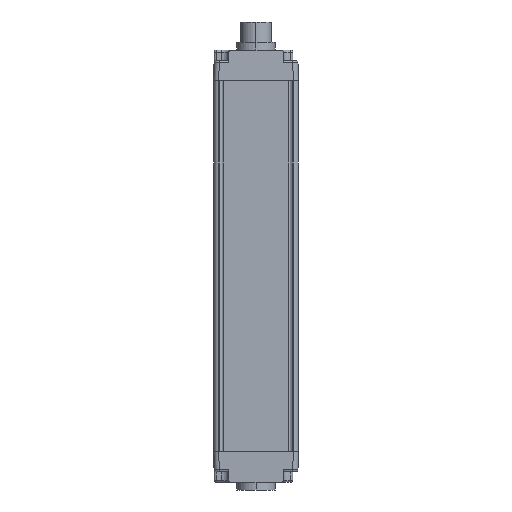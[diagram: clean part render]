
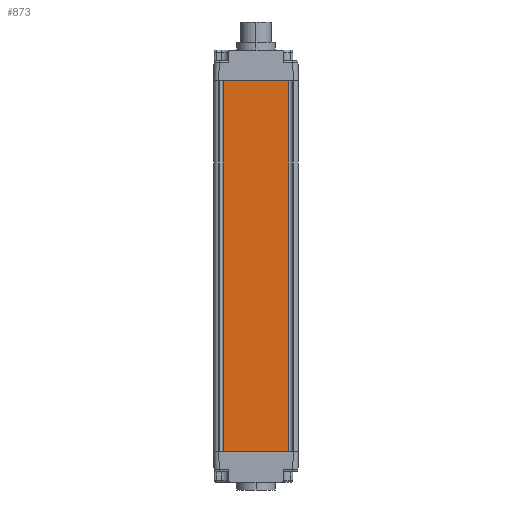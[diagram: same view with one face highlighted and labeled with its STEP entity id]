
A CAD part, left-side view. The second image highlights one B-rep face of the part: STEP entity #873.
In plain terms, the highlighted planar face has unit normal (-1, 0, 0).
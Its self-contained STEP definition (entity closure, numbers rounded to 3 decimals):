
#873=ADVANCED_FACE('',(#1848),#1441,.T.);
#1441=PLANE('',#12952);
#1848=FACE_OUTER_BOUND('',#2457,.T.);
#2457=EDGE_LOOP('',(#6197,#6198,#6199,#6200));
#3057=LINE('',#17689,#4226);
#3087=LINE('',#17783,#4256);
#3276=LINE('',#18323,#4445);
#3277=LINE('',#18325,#4446);
#4226=VECTOR('',#14066,1.);
#4256=VECTOR('',#14142,1.);
#4445=VECTOR('',#14715,1.);
#4446=VECTOR('',#14718,1.);
#6197=ORIENTED_EDGE('',*,*,#10488,.F.);
#6198=ORIENTED_EDGE('',*,*,#10796,.T.);
#6199=ORIENTED_EDGE('',*,*,#10535,.T.);
#6200=ORIENTED_EDGE('',*,*,#10797,.T.);
#9232=VERTEX_POINT('',#17688);
#9233=VERTEX_POINT('',#17690);
#9273=VERTEX_POINT('',#17782);
#9274=VERTEX_POINT('',#17784);
#10488=EDGE_CURVE('',#9232,#9233,#3057,.T.);
#10535=EDGE_CURVE('',#9274,#9273,#3087,.T.);
#10796=EDGE_CURVE('',#9232,#9274,#3276,.T.);
#10797=EDGE_CURVE('',#9273,#9233,#3277,.T.);
#12952=AXIS2_PLACEMENT_3D('',#18326,#14719,#14720);
#14066=DIRECTION('',(0.,1.,0.));
#14142=DIRECTION('',(0.,1.,0.));
#14715=DIRECTION('',(0.,0.,1.));
#14718=DIRECTION('',(0.,0.,-1.));
#14719=DIRECTION('',(-1.,0.,0.));
#14720=DIRECTION('',(0.,1.,0.));
#17688=CARTESIAN_POINT('',(-15.9,-12.8,0.));
#17689=CARTESIAN_POINT('',(-15.9,-12.8,0.));
#17690=CARTESIAN_POINT('',(-15.9,12.8,0.));
#17782=CARTESIAN_POINT('',(-15.9,12.8,145.));
#17783=CARTESIAN_POINT('',(-15.9,16.5,145.));
#17784=CARTESIAN_POINT('',(-15.9,-12.8,145.));
#18323=CARTESIAN_POINT('',(-15.9,-12.8,0.));
#18325=CARTESIAN_POINT('',(-15.9,12.8,100.));
#18326=CARTESIAN_POINT('',(-15.9,16.5,0.));
